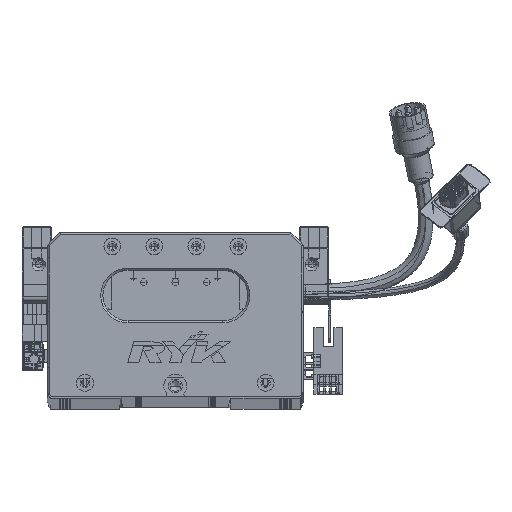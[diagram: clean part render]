
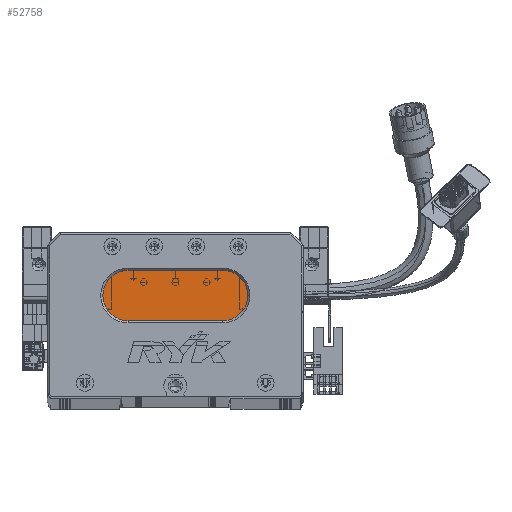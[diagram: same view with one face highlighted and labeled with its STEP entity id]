
A CAD part, top view. The second image highlights one B-rep face of the part: STEP entity #52758.
In plain terms, the highlighted planar face has unit normal (0, 0, 1) as drawn and (0, 0, -1) by its records, which use the part's own axes.
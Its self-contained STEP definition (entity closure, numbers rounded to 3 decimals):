
#3159 = VERTEX_POINT ( 'NONE', #5651 ) ;
#5651 = CARTESIAN_POINT ( 'NONE',  ( 38.5, 36., 13. ) ) ;
#9124 = VERTEX_POINT ( 'NONE', #22868 ) ;
#10914 = DIRECTION ( 'NONE',  ( -1., 0., 0. ) ) ;
#11475 = CARTESIAN_POINT ( 'NONE',  ( 26.5, 48., 13. ) ) ;
#12243 = CARTESIAN_POINT ( 'NONE',  ( 83.5, 48., 13. ) ) ;
#13021 = DIRECTION ( 'NONE',  ( -1., 0., 0. ) ) ;
#13024 = CARTESIAN_POINT ( 'NONE',  ( 38.5, 48., 13. ) ) ;
#13923 = CARTESIAN_POINT ( 'NONE',  ( 38.5, 48., 13. ) ) ;
#14317 = CIRCLE ( 'NONE', #14440, 12. ) ;
#14440 = AXIS2_PLACEMENT_3D ( 'NONE', #101278, #69286, #39897 ) ;
#14554 = CARTESIAN_POINT ( 'NONE',  ( 83.5, 60., 13. ) ) ;
#18882 = VECTOR ( 'NONE', #44953, 1000. ) ;
#22868 = CARTESIAN_POINT ( 'NONE',  ( 38.5, 60., 13. ) ) ;
#31336 = EDGE_CURVE ( 'NONE', #77071, #3159, #94225, .T. ) ;
#33856 = DIRECTION ( 'NONE',  ( 0., 0., -1. ) ) ;
#39897 = DIRECTION ( 'NONE',  ( -1., 0., 0. ) ) ;
#40065 = ORIENTED_EDGE ( 'NONE', *, *, #61957, .T. ) ;
#41211 = VERTEX_POINT ( 'NONE', #11475 ) ;
#41544 = DIRECTION ( 'NONE',  ( 0., 0., -1. ) ) ;
#44953 = DIRECTION ( 'NONE',  ( 1., 0., 0. ) ) ;
#47755 = FACE_OUTER_BOUND ( 'NONE', #120550, .T. ) ;
#52758 = ADVANCED_FACE ( 'NONE', ( #47755 ), #82527, .T. ) ;
#53298 = EDGE_CURVE ( 'NONE', #3159, #41211, #87531, .T. ) ;
#53961 = ORIENTED_EDGE ( 'NONE', *, *, #80900, .T. ) ;
#54294 = DIRECTION ( 'NONE',  ( 0., 0., -1. ) ) ;
#54746 = DIRECTION ( 'NONE',  ( -1., 0., 0. ) ) ;
#55256 = ORIENTED_EDGE ( 'NONE', *, *, #72600, .T. ) ;
#61957 = EDGE_CURVE ( 'NONE', #9124, #103850, #104742, .T. ) ;
#65833 = DIRECTION ( 'NONE',  ( -1., 0., 0. ) ) ;
#66181 = CIRCLE ( 'NONE', #79884, 12. ) ;
#69286 = DIRECTION ( 'NONE',  ( 0., 0., -1. ) ) ;
#72600 = EDGE_CURVE ( 'NONE', #103850, #77071, #14317, .T. ) ;
#77071 = VERTEX_POINT ( 'NONE', #111867 ) ;
#79884 = AXIS2_PLACEMENT_3D ( 'NONE', #13923, #33856, #54746 ) ;
#80900 = EDGE_CURVE ( 'NONE', #41211, #9124, #66181, .T. ) ;
#82527 = PLANE ( 'NONE',  #108245 ) ;
#84576 = ORIENTED_EDGE ( 'NONE', *, *, #31336, .T. ) ;
#87531 = CIRCLE ( 'NONE', #96376, 12. ) ;
#94225 = LINE ( 'NONE', #124484, #111635 ) ;
#96376 = AXIS2_PLACEMENT_3D ( 'NONE', #13024, #54294, #65833 ) ;
#101278 = CARTESIAN_POINT ( 'NONE',  ( 83.5, 48., 13. ) ) ;
#103850 = VERTEX_POINT ( 'NONE', #14554 ) ;
#104742 = LINE ( 'NONE', #114782, #18882 ) ;
#105729 = ORIENTED_EDGE ( 'NONE', *, *, #53298, .T. ) ;
#108245 = AXIS2_PLACEMENT_3D ( 'NONE', #12243, #41544, #10914 ) ;
#111635 = VECTOR ( 'NONE', #13021, 1000. ) ;
#111867 = CARTESIAN_POINT ( 'NONE',  ( 83.5, 36., 13. ) ) ;
#114782 = CARTESIAN_POINT ( 'NONE',  ( 83.5, 60., 13. ) ) ;
#120550 = EDGE_LOOP ( 'NONE', ( #55256, #84576, #105729, #53961, #40065 ) ) ;
#124484 = CARTESIAN_POINT ( 'NONE',  ( 83.5, 36., 13. ) ) ;
